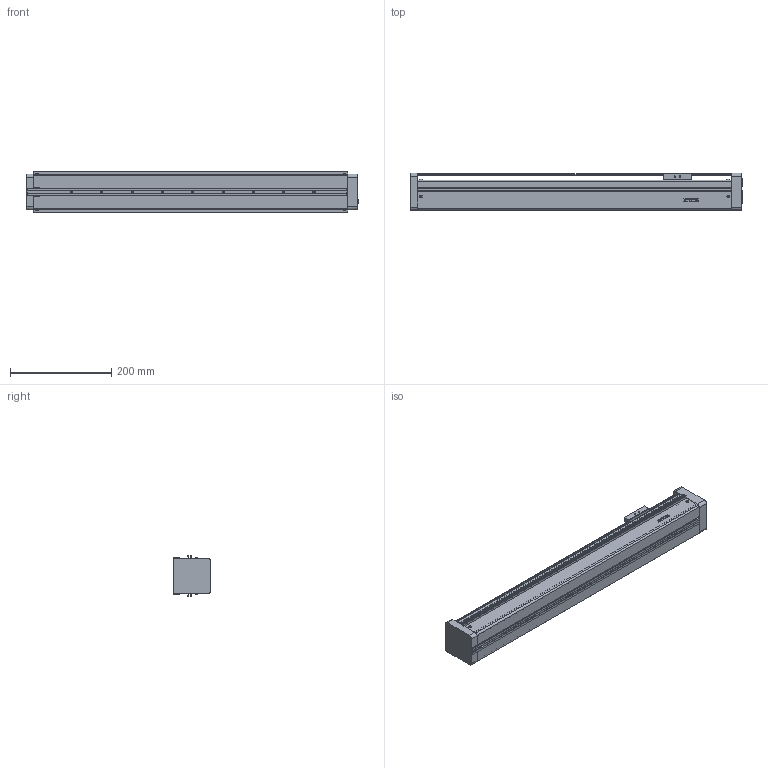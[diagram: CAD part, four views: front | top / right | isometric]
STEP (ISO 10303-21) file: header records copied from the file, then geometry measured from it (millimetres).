
FILE_DESCRIPTION(/* description */ (''),/* implementation_level */ '2;1');
FILE_NAME(/* name */ 'D:\混合母檔20191031\混和母檔\混和母檔\bin\Debug\Download\3D\KE705C-450AF0\KE705C-450AF0.stp',/* time_stamp */ '2019-11-04T14:04:10+08:00',/* author */ ('user'),/* organization */ (''),/* preprocessor_version */ 'ST-DEVELOPER v16.13',/* originating_system */ 'Autodesk Inventor 2018',/* authorisation */ '');
FILE_SCHEMA (('AUTOMOTIVE_DESIGN { 1 0 10303 214 3 1 1 }'));
Length unit declared in the file: millimetre
Products named in the file (3): KE705C-450AF0; KE70-F0-BP; KE70-SL
Assembly tree (2 placements, depth 2):
  KE705C-450AF0
    KE70-F0-BP
    KE70-SL
Bounding box: 657 x 75 x 79.4 mm (x, y, z)
Volume: 2707018.8 mm3; surface area: 397857.9 mm2
Topology: 2 solids, 29 shells, 832 faces, 2211 edges, 1446 vertices
Faces by surface type: plane 502, bspline 148, cylinder 107, cone 63, torus 12
Full cylindrical faces by diameter (mm): 2.459 x20, 3 x12, 3.242 x6, 3.5 x16, 4.134 x13, 5.7 x12, 6 x5, 30 x1
Entity records: 27695 total; most frequent: CARTESIAN_POINT 8766, ORIENTED_EDGE 3892, DIRECTION 3320, EDGE_CURVE 1946, VERTEX_POINT 1341, LINE 1272, VECTOR 1272, EDGE_LOOP 1041
